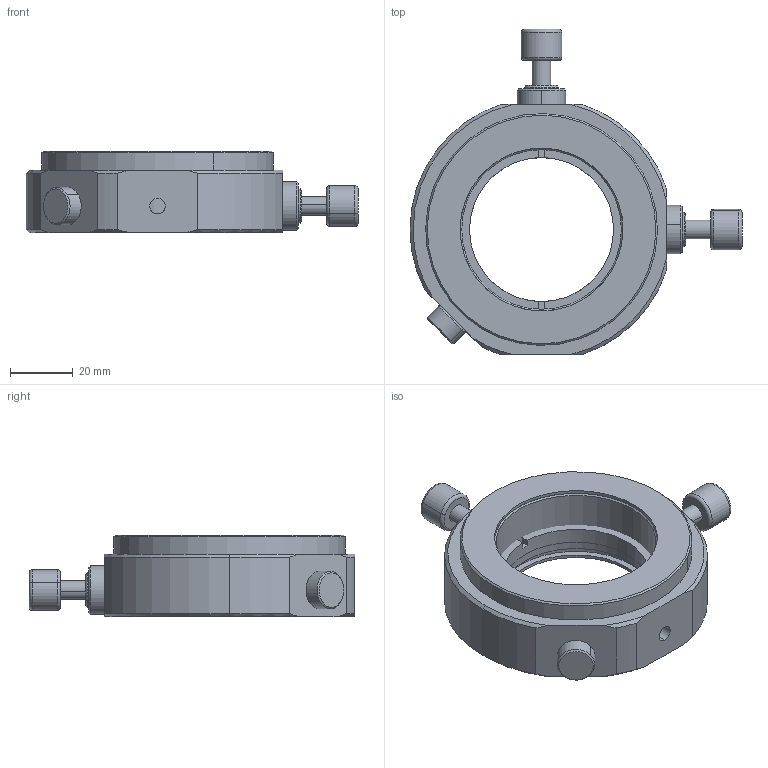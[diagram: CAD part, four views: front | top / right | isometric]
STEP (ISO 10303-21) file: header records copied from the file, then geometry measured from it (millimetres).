
FILE_DESCRIPTION (( 'STEP AP203' ), '1' );
FILE_NAME ('7MML750謗峎覃淕芵噩殤.STEP', '2019-12-04T03:33:15', ( '' ), ( '' ), 'SwSTEP 2.0', 'SolidWorks 2018', '' );
FILE_SCHEMA (( 'CONFIG_CONTROL_DESIGN' ));
Length unit declared in the file: millimetre
Products named in the file (1): 7MML750謗峎覃淕芵噩殤
Bounding box: 106 x 104 x 26 mm (x, y, z)
Volume: 73849.5 mm3; surface area: 46230.6 mm2
Topology: 14 solids, 14 shells, 255 faces, 553 edges, 344 vertices
Faces by surface type: cylinder 110, cone 68, plane 65, torus 8, sphere 4
Entity records: 7336 total; most frequent: CARTESIAN_POINT 1507, DIRECTION 1329, ORIENTED_EDGE 1082, AXIS2_PLACEMENT_3D 564, EDGE_CURVE 541, VERTEX_POINT 340, CIRCLE 308, EDGE_LOOP 307
